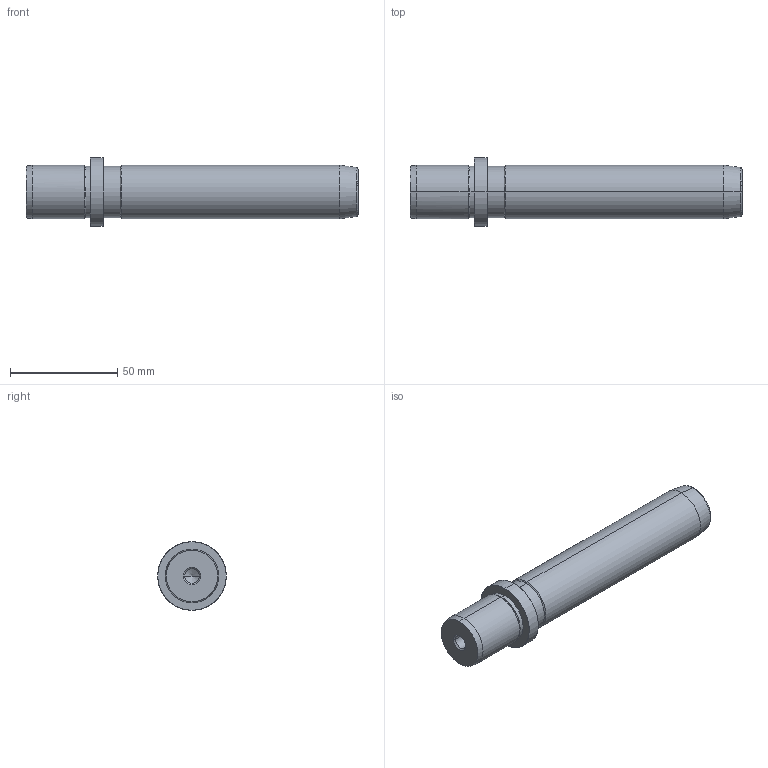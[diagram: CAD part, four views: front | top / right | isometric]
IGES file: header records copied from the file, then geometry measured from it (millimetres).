
Start section: START RECORD GO HERE.
Global section: file name: 719-25x125.igs; native system: DASSAULT SYSTEMES CATIA V5 R20 - www.3ds.com; preprocessor: CATIA Version 5 Release 20 ; author: Utente; organization: NB04-ASUS; date: 20210103.172404; units: millimetre
Bounding box: 155 x 32 x 32 mm (x, y, z)
Surface area: 14810 mm2 (no closed solid volume)
Topology: 0 solids, 0 shells, 36 faces, 196 edges, 192 vertices
Faces by surface type: revolution 32, plane 4
